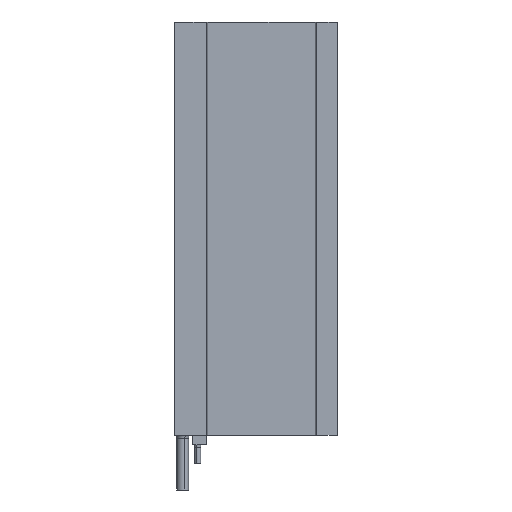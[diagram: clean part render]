
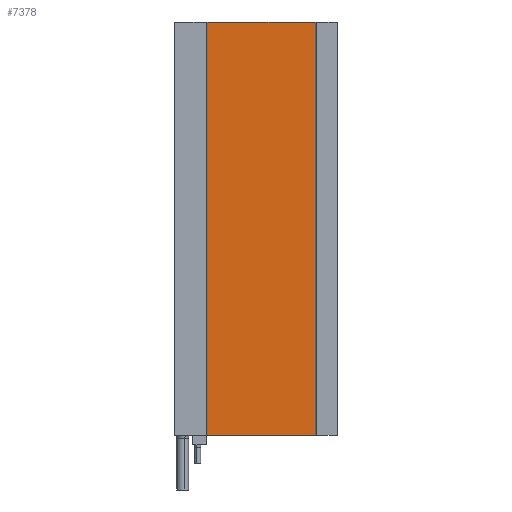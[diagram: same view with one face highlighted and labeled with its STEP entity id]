
A CAD part, left-side view. The second image highlights one B-rep face of the part: STEP entity #7378.
In plain terms, the highlighted planar face has unit normal (-1, 0, 0).
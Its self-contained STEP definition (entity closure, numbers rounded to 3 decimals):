
#2 = CARTESIAN_POINT ( 'NONE',  ( 66.6, 300.204, 280.517 ) ) ;
#15 = LINE ( 'NONE', #88, #1786 ) ;
#45 = ORIENTED_EDGE ( 'NONE', *, *, #3712, .F. ) ;
#51 = EDGE_CURVE ( 'NONE', #6966, #7192, #15, .T. ) ;
#88 = CARTESIAN_POINT ( 'NONE',  ( 66.6, 231.204, 545.517 ) ) ;
#187 = ORIENTED_EDGE ( 'NONE', *, *, #51, .F. ) ;
#375 = VECTOR ( 'NONE', #978, 1000. ) ;
#602 = VECTOR ( 'NONE', #5740, 1000. ) ;
#671 = VERTEX_POINT ( 'NONE', #1430 ) ;
#707 = CARTESIAN_POINT ( 'NONE',  ( 66.6, 298.704, 280.517 ) ) ;
#804 = ORIENTED_EDGE ( 'NONE', *, *, #3232, .F. ) ;
#887 = EDGE_LOOP ( 'NONE', ( #5795, #187, #45, #804 ) ) ;
#978 = DIRECTION ( 'NONE',  ( 0., -1., 0. ) ) ;
#1321 = EDGE_CURVE ( 'NONE', #5046, #7192, #4843, .T. ) ;
#1430 = CARTESIAN_POINT ( 'NONE',  ( 66.6, 300.204, 545.517 ) ) ;
#1531 = PLANE ( 'NONE',  #5008 ) ;
#1725 = DIRECTION ( 'NONE',  ( 0., 0., -1. ) ) ;
#1786 = VECTOR ( 'NONE', #5778, 1000. ) ;
#2260 = LINE ( 'NONE', #2, #602 ) ;
#2412 = CARTESIAN_POINT ( 'NONE',  ( 66.6, 300.204, 280.517 ) ) ;
#2456 = VECTOR ( 'NONE', #4242, 1000. ) ;
#2754 = CARTESIAN_POINT ( 'NONE',  ( 66.6, 298.704, 545.517 ) ) ;
#2844 = CARTESIAN_POINT ( 'NONE',  ( 66.6, 298.704, 545.517 ) ) ;
#3232 = EDGE_CURVE ( 'NONE', #5046, #671, #2260, .T. ) ;
#3712 = EDGE_CURVE ( 'NONE', #671, #6966, #4462, .T. ) ;
#4242 = DIRECTION ( 'NONE',  ( 0., -1., 0. ) ) ;
#4462 = LINE ( 'NONE', #2844, #375 ) ;
#4495 = DIRECTION ( 'NONE',  ( 1., 0., 0. ) ) ;
#4843 = LINE ( 'NONE', #707, #2456 ) ;
#5008 = AXIS2_PLACEMENT_3D ( 'NONE', #2754, #4495, #1725 ) ;
#5046 = VERTEX_POINT ( 'NONE', #2412 ) ;
#5740 = DIRECTION ( 'NONE',  ( 0., 0., 1. ) ) ;
#5778 = DIRECTION ( 'NONE',  ( 0., 0., -1. ) ) ;
#5795 = ORIENTED_EDGE ( 'NONE', *, *, #1321, .T. ) ;
#6216 = CARTESIAN_POINT ( 'NONE',  ( 66.6, 231.204, 280.517 ) ) ;
#6821 = CARTESIAN_POINT ( 'NONE',  ( 66.6, 231.204, 545.517 ) ) ;
#6966 = VERTEX_POINT ( 'NONE', #6821 ) ;
#7192 = VERTEX_POINT ( 'NONE', #6216 ) ;
#7284 = FACE_OUTER_BOUND ( 'NONE', #887, .T. ) ;
#7378 = ADVANCED_FACE ( 'NONE', ( #7284 ), #1531, .F. ) ;
